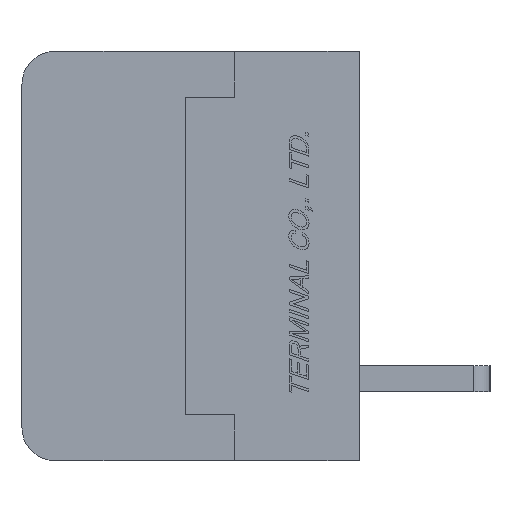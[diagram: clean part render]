
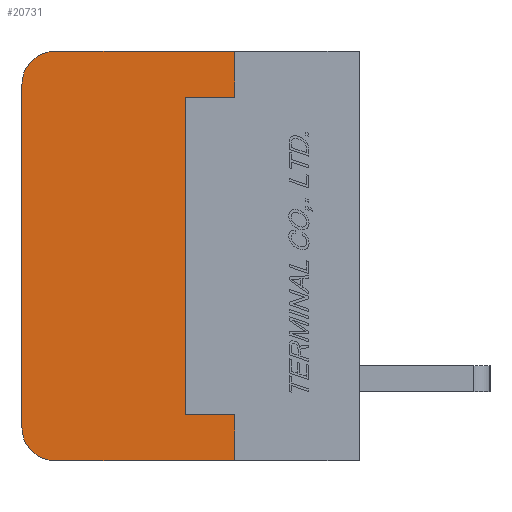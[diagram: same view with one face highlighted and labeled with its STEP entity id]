
A CAD part, left-side view. The second image highlights one B-rep face of the part: STEP entity #20731.
In plain terms, the highlighted planar face has unit normal (-1, 0, 0).
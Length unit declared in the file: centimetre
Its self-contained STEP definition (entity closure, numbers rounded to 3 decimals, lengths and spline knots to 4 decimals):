
#1139=CIRCLE('',#35228,0.1);
#1141=CIRCLE('',#35231,0.1);
#2884=VERTEX_POINT('',#32411);
#2885=VERTEX_POINT('',#32413);
#2887=VERTEX_POINT('',#32419);
#2889=VERTEX_POINT('',#32425);
#2890=VERTEX_POINT('',#32432);
#2891=VERTEX_POINT('',#32433);
#2892=VERTEX_POINT('',#32436);
#2893=VERTEX_POINT('',#32438);
#2894=VERTEX_POINT('',#32440);
#2895=VERTEX_POINT('',#32442);
#5076=VECTOR('',#25468,1.);
#5082=VECTOR('',#25488,1.);
#5083=VECTOR('',#25489,1.);
#5084=VECTOR('',#25490,1.);
#5085=VECTOR('',#25491,1.);
#5086=VECTOR('',#25492,1.);
#5087=VECTOR('',#25493,1.);
#5088=VECTOR('',#25494,1.);
#7336=LINE('',#32412,#5076);
#7342=LINE('',#32431,#5082);
#7343=LINE('',#32434,#5083);
#7344=LINE('',#32435,#5084);
#7345=LINE('',#32437,#5085);
#7346=LINE('',#32439,#5086);
#7347=LINE('',#32441,#5087);
#7348=LINE('',#32443,#5088);
#10380=EDGE_CURVE('',#2884,#2885,#7336,.T.);
#10384=EDGE_CURVE('',#2887,#2884,#1139,.T.);
#10386=EDGE_CURVE('',#2885,#2889,#1141,.T.);
#10390=EDGE_CURVE('',#2890,#2891,#7342,.T.);
#10391=EDGE_CURVE('',#2889,#2890,#7343,.T.);
#10392=EDGE_CURVE('',#2892,#2887,#7344,.T.);
#10393=EDGE_CURVE('',#2893,#2892,#7345,.T.);
#10394=EDGE_CURVE('',#2894,#2893,#7346,.T.);
#10395=EDGE_CURVE('',#2895,#2894,#7347,.T.);
#10396=EDGE_CURVE('',#2891,#2895,#7348,.T.);
#16074=ORIENTED_EDGE('',*,*,#10390,.F.);
#16075=ORIENTED_EDGE('',*,*,#10391,.F.);
#16076=ORIENTED_EDGE('',*,*,#10386,.F.);
#16077=ORIENTED_EDGE('',*,*,#10380,.F.);
#16078=ORIENTED_EDGE('',*,*,#10384,.F.);
#16079=ORIENTED_EDGE('',*,*,#10392,.F.);
#16080=ORIENTED_EDGE('',*,*,#10393,.F.);
#16081=ORIENTED_EDGE('',*,*,#10394,.F.);
#16082=ORIENTED_EDGE('',*,*,#10395,.F.);
#16083=ORIENTED_EDGE('',*,*,#10396,.F.);
#18259=EDGE_LOOP('',(#16074,#16075,#16076,#16077,#16078,#16079,#16080,#16081,
#16082,#16083));
#19533=FACE_BOUND('',#18259,.T.);
#20731=ADVANCED_FACE('',(#19533),#21595,.F.);
#21595=PLANE('',#35233);
#25468=DIRECTION('',(0.,0.,1.));
#25475=DIRECTION('',(1.,0.,0.));
#25476=DIRECTION('',(0.,0.,-0.1));
#25481=DIRECTION('',(1.,0.,0.));
#25482=DIRECTION('',(0.,0.,-0.1));
#25487=DIRECTION('',(1.,0.,0.));
#25488=DIRECTION('',(0.,0.,-1.));
#25489=DIRECTION('',(0.,-1.,0.));
#25490=DIRECTION('',(0.,1.,0.));
#25491=DIRECTION('',(0.,0.,-1.));
#25492=DIRECTION('',(0.,-1.,0.));
#25493=DIRECTION('',(0.,0.,-1.));
#25494=DIRECTION('',(0.,1.,0.));
#32411=CARTESIAN_POINT('',(-0.762,1.03,-0.525));
#32412=CARTESIAN_POINT('',(-0.762,1.03,-0.525));
#32413=CARTESIAN_POINT('',(-0.762,1.03,0.525));
#32419=CARTESIAN_POINT('',(-0.762,0.93,-0.625));
#32420=CARTESIAN_POINT('',(-0.762,0.93,-0.525));
#32424=CARTESIAN_POINT('',(-0.762,0.93,0.525));
#32425=CARTESIAN_POINT('',(-0.762,0.93,0.625));
#32430=CARTESIAN_POINT('',(-0.762,0.5047,0.));
#32431=CARTESIAN_POINT('',(-0.762,0.38,0.625));
#32432=CARTESIAN_POINT('',(-0.762,0.38,0.625));
#32433=CARTESIAN_POINT('',(-0.762,0.38,0.485));
#32434=CARTESIAN_POINT('',(-0.762,0.93,0.625));
#32435=CARTESIAN_POINT('',(-0.762,0.,-0.625));
#32436=CARTESIAN_POINT('',(-0.762,0.38,-0.625));
#32437=CARTESIAN_POINT('',(-0.762,0.38,-0.485));
#32438=CARTESIAN_POINT('',(-0.762,0.38,-0.485));
#32439=CARTESIAN_POINT('',(-0.762,0.53,-0.485));
#32440=CARTESIAN_POINT('',(-0.762,0.53,-0.485));
#32441=CARTESIAN_POINT('',(-0.762,0.53,0.485));
#32442=CARTESIAN_POINT('',(-0.762,0.53,0.485));
#32443=CARTESIAN_POINT('',(-0.762,0.38,0.485));
#35228=AXIS2_PLACEMENT_3D('',#32420,#25475,#25476);
#35231=AXIS2_PLACEMENT_3D('',#32424,#25481,#25482);
#35233=AXIS2_PLACEMENT_3D('',#32430,#25487,$);
